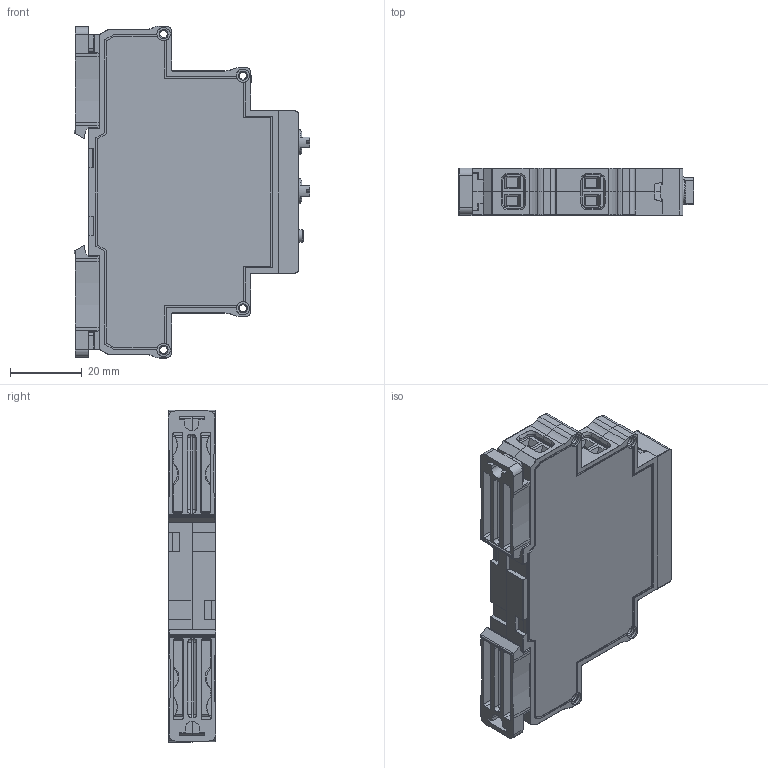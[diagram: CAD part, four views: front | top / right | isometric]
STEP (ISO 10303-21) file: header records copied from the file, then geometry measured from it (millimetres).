
FILE_DESCRIPTION(('STEP AP242'), '1');
FILE_NAME('ﾑ碚濱ﾔﾐ-2ﾌ', '', ('UNSPECIFIED'), ('UNSPECIFIED'), 'C3D Converter', 'C3D Toolkit', '');
FILE_SCHEMA(('AP242_MANAGED_MODEL_BASED_3D_ENGINEERING_MIM_LF { 1 0 10303 442 1 1 4 }'));
Length unit declared in the file: millimetre
Products named in the file (16): Case_UC1-2sR-2024_SimpleModel_6mm; UC1-2sR-2024_Plug_13mm; Case13-18-23mm_2step_Lock_v01a_Build20140909_1552; Case_UC1-2sR-2025_Face_13mm; R-knob_2017_Hex2mm__Џｮ гｬｮｫзｭЁо
Assembly tree (21 placements, depth 3):
  (unnamed)
    Case_UC1-2sR-2024_SimpleModel_6mm  x2
    UC1-2sR-2024_Plug_13mm
    Case13-18-23mm_2step_Lock_v01a_Build20140909_1552  x2
    Case_UC1-2sR-2025_Face_13mm
    (unnamed)  x3
      (unnamed)
    R-knob_2017_Hex2mm__Џｮ гｬｮｫзｭЁо  x2
    (unnamed)
    (unnamed)
    (unnamed)
    (unnamed)
    (unnamed)
    (unnamed)
    (unnamed)
    (unnamed)
Bounding box: 65.63 x 13.2 x 92.4 mm (x, y, z)
Volume: 21923.3 mm3; surface area: 34377.4 mm2
Topology: 45 solids, 45 shells, 3811 faces, 10534 edges, 6819 vertices
Faces by surface type: plane 2778, cylinder 442, extrusion 346, torus 127, cone 66, sphere 32, bspline 20
Full cylindrical faces by diameter (mm): 1.238 x6, 2.1 x10, 2.2 x2, 3.5 x1, 3.7 x8, 3.9 x6, 4 x1, 4.5 x2, 5 x2
Entity records: 117489 total; most frequent: CARTESIAN_POINT 21378, ORIENTED_EDGE 15996, DIRECTION 13187, EDGE_CURVE 7998, VECTOR 6965, LINE 6619, VERTEX_POINT 5258, AXIS2_PLACEMENT_3D 3111
